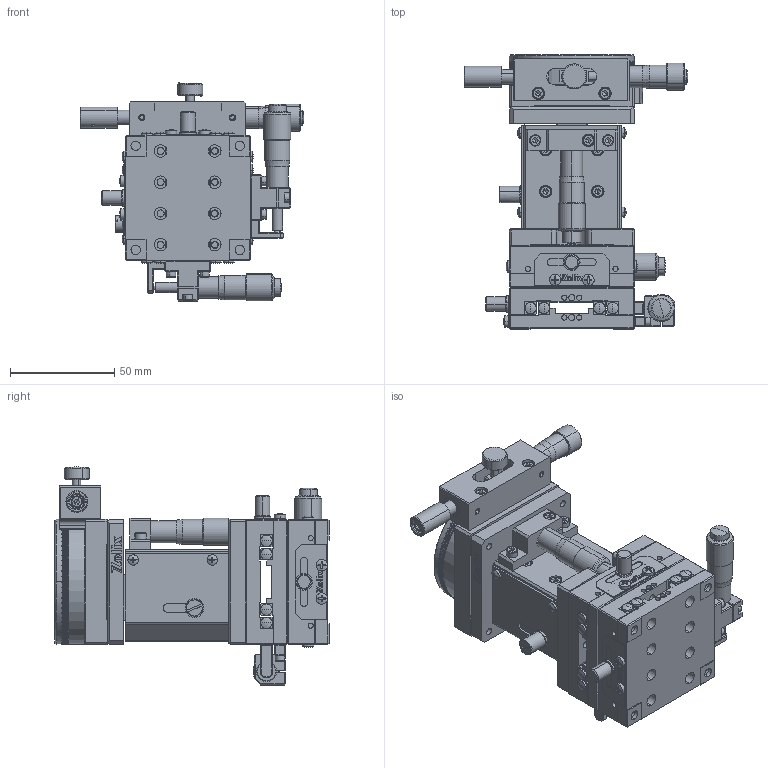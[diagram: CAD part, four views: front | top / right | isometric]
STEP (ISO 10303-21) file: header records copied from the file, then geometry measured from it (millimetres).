
FILE_DESCRIPTION (( 'STEP AP214' ), '1' );
FILE_NAME ('AAK4-60R.STEP', '2020-12-18T09:18:31', ( '' ), ( '' ), 'SwSTEP 2.0', 'SolidWorks 2017', '' );
FILE_SCHEMA (( 'AUTOMOTIVE_DESIGN' ));
Length unit declared in the file: millimetre
Products named in the file (1): AAK4-60R
Bounding box: 107.3 x 131.5 x 104.61 mm (x, y, z)
Surface area: 135662.6 mm2 (no closed solid volume)
Topology: 0 solids, 144 shells, 3008 faces, 11892 edges, 8334 vertices
Faces by surface type: plane 1938, cylinder 607, cone 260, torus 138, bspline 39, sphere 26
Entity records: 157460 total; most frequent: CARTESIAN_POINT 25571, DIRECTION 20954, ORIENTED_EDGE 18339, EDGE_CURVE 11730, VERTEX_POINT 8328, LINE 7934, VECTOR 7934, AXIS2_PLACEMENT_3D 6510
